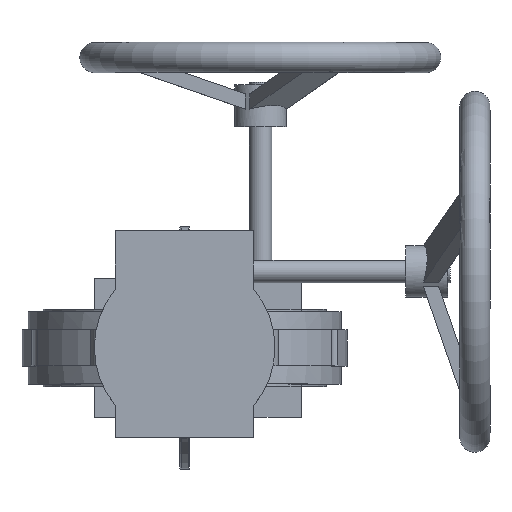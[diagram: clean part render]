
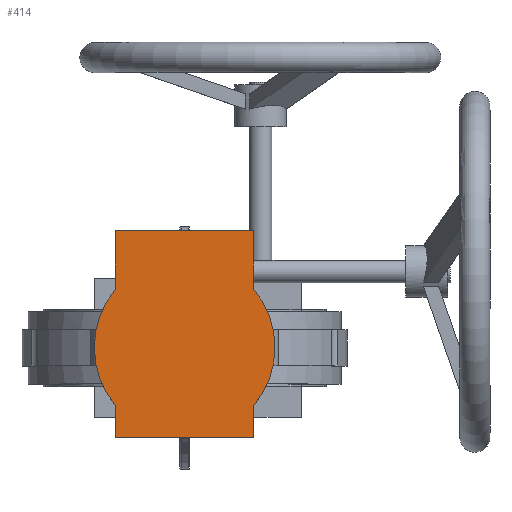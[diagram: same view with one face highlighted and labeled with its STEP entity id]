
A CAD part, top view. The second image highlights one B-rep face of the part: STEP entity #414.
In plain terms, the highlighted planar face has unit normal (0, 0, 1) as drawn and (0, 0, -1) by its records, which use the part's own axes.
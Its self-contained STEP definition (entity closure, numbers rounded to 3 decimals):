
#414 = ADVANCED_FACE( '', ( #1019 ), #1020, .F. );
#1019 = FACE_OUTER_BOUND( '', #2178, .T. );
#1020 = PLANE( '', #2179 );
#2178 = EDGE_LOOP( '', ( #4502, #4503, #4504, #4505, #4506, #4507, #4508, #4509 ) );
#2179 = AXIS2_PLACEMENT_3D( '', #4510, #4511, #4512 );
#4502 = ORIENTED_EDGE( '', *, *, #6745, .F. );
#4503 = ORIENTED_EDGE( '', *, *, #6746, .F. );
#4504 = ORIENTED_EDGE( '', *, *, #6714, .F. );
#4505 = ORIENTED_EDGE( '', *, *, #6747, .F. );
#4506 = ORIENTED_EDGE( '', *, *, #6737, .F. );
#4507 = ORIENTED_EDGE( '', *, *, #6549, .F. );
#4508 = ORIENTED_EDGE( '', *, *, #6659, .F. );
#4509 = ORIENTED_EDGE( '', *, *, #6748, .F. );
#4510 = CARTESIAN_POINT( '', ( 0., 0., 0. ) );
#4511 = DIRECTION( '', ( 0., 0., 1. ) );
#4512 = DIRECTION( '', ( 1., 0., 0. ) );
#6549 = EDGE_CURVE( '', #7529, #7531, #7532, .T. );
#6659 = EDGE_CURVE( '', #7711, #7529, #7713, .T. );
#6714 = EDGE_CURVE( '', #7803, #7805, #7806, .T. );
#6737 = EDGE_CURVE( '', #7531, #7840, #7841, .T. );
#6745 = EDGE_CURVE( '', #7853, #7854, #7855, .T. );
#6746 = EDGE_CURVE( '', #7805, #7853, #7856, .T. );
#6747 = EDGE_CURVE( '', #7840, #7803, #7857, .T. );
#6748 = EDGE_CURVE( '', #7854, #7711, #7858, .T. );
#7529 = VERTEX_POINT( '', #9320 );
#7531 = VERTEX_POINT( '', #9323 );
#7532 = LINE( '', #9324, #9325 );
#7711 = VERTEX_POINT( '', #10367 );
#7713 = LINE( '', #10370, #10371 );
#7803 = VERTEX_POINT( '', #10978 );
#7805 = VERTEX_POINT( '', #10981 );
#7806 = LINE( '', #10982, #10983 );
#7840 = VERTEX_POINT( '', #11051 );
#7841 = CIRCLE( '', #11052, 75. );
#7853 = VERTEX_POINT( '', #11067 );
#7854 = VERTEX_POINT( '', #11068 );
#7855 = CIRCLE( '', #11069, 75. );
#7856 = LINE( '', #11070, #11071 );
#7857 = LINE( '', #11072, #11073 );
#7858 = LINE( '', #11074, #11075 );
#9320 = CARTESIAN_POINT( '', ( 97., 57.5, 0. ) );
#9323 = CARTESIAN_POINT( '', ( 48.153, 57.5, 0. ) );
#9324 = CARTESIAN_POINT( '', ( 97., 57.5, 0. ) );
#9325 = VECTOR( '', #15024, 1000. );
#10367 = CARTESIAN_POINT( '', ( 97., -57.5, 0. ) );
#10370 = CARTESIAN_POINT( '', ( 97., -57.5, 0. ) );
#10371 = VECTOR( '', #15115, 1000. );
#10978 = CARTESIAN_POINT( '', ( -75., 57.5, 0. ) );
#10981 = CARTESIAN_POINT( '', ( -75., -57.5, 0. ) );
#10982 = CARTESIAN_POINT( '', ( -75., 57.5, 0. ) );
#10983 = VECTOR( '', #15162, 1000. );
#11051 = CARTESIAN_POINT( '', ( -48.153, 57.5, 0. ) );
#11052 = AXIS2_PLACEMENT_3D( '', #15189, #15190, #15191 );
#11067 = CARTESIAN_POINT( '', ( -48.153, -57.5, 0. ) );
#11068 = CARTESIAN_POINT( '', ( 48.153, -57.5, 0. ) );
#11069 = AXIS2_PLACEMENT_3D( '', #15201, #15202, #15203 );
#11070 = CARTESIAN_POINT( '', ( -75., -57.5, 0. ) );
#11071 = VECTOR( '', #15204, 1000. );
#11072 = CARTESIAN_POINT( '', ( -48.153, 57.5, 0. ) );
#11073 = VECTOR( '', #15205, 1000. );
#11074 = CARTESIAN_POINT( '', ( 48.153, -57.5, 0. ) );
#11075 = VECTOR( '', #15206, 1000. );
#15024 = DIRECTION( '', ( -1., 0., 0. ) );
#15115 = DIRECTION( '', ( 0., 1., 0. ) );
#15162 = DIRECTION( '', ( 0., -1., 0. ) );
#15189 = CARTESIAN_POINT( '', ( 0., 0., 0. ) );
#15190 = DIRECTION( '', ( 0., 0., 1. ) );
#15191 = DIRECTION( '', ( 1., 0., 0. ) );
#15201 = CARTESIAN_POINT( '', ( 0., 0., 0. ) );
#15202 = DIRECTION( '', ( 0., 0., 1. ) );
#15203 = DIRECTION( '', ( 1., 0., 0. ) );
#15204 = DIRECTION( '', ( 1., 0., 0. ) );
#15205 = DIRECTION( '', ( -1., 0., 0. ) );
#15206 = DIRECTION( '', ( 1., 0., 0. ) );
